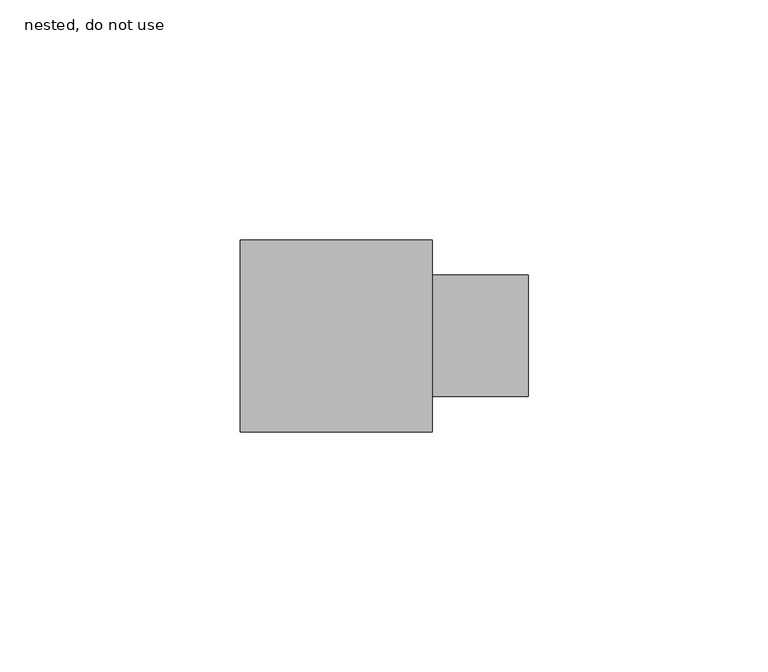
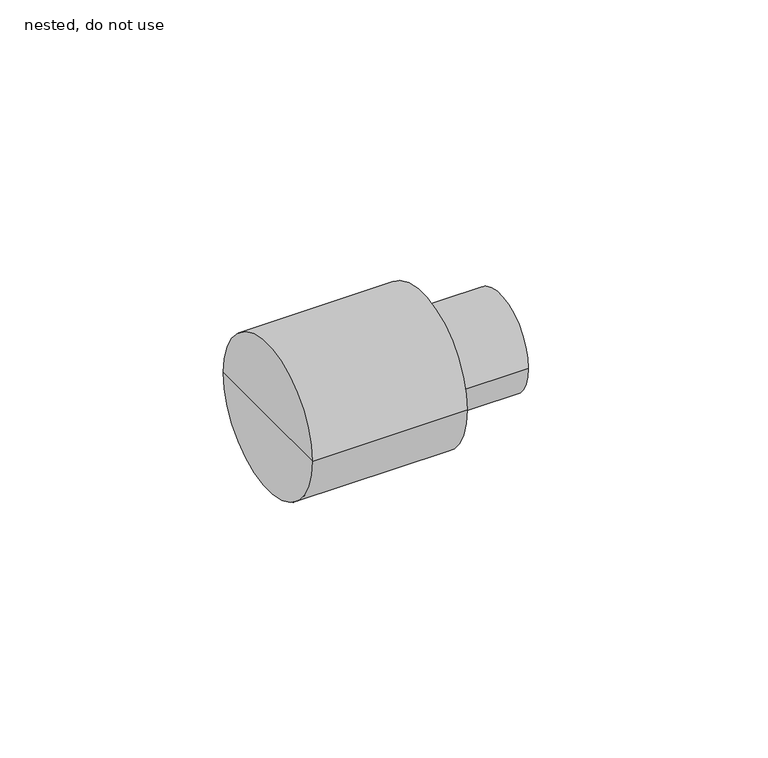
"""IFC4 building model written with IfcOpenShell, lengths in millimetres: pipe fitting geometry, NLRS_52_PIF_UN_HDPE male thread adapter -SH_Akatherm : nested, do not use."""

from ifc_helpers import new_model, si_unit, frame, origin, place, context, project, spatial, circle_curve, source, transform, mapped, element, save
from ifc_brep_helpers import plane_surface, cylinder_surface, advanced_brep


def nested_do_not_use_e3f89409(model_context):
    return source(origin(), model_context, "Body", "AdvancedBrep", [
        advanced_brep(
        [(30.0, 12.7, 0.0), (30.0, 0.0, 0.0), (30.0, -12.7, 0.0), (10.0, 12.7, 0.0), (10.0, -12.7, 0.0), (10.0, 20.0, 0.0), (10.0, -20.0, 0.0), (-30.0, 20.0, 0.0), (-30.0, -20.0, 0.0), (-30.0, 0.0, 0.0)],
        [
            (0, 1),
            (1, 2),
            (2, 0, circle_curve(frame((30.0, 0.0, 0.0), z_axis=(1.0, 0.0, 0.0), x_axis=(0.0, -1.0, 0.0)), 12.7)),
            (0, 2, circle_curve(frame((30.0, 0.0, 0.0), z_axis=(1.0, 0.0, 0.0), x_axis=(0.0, -1.0, 0.0)), 12.7)),
            (3, 0),
            (2, 4),
            (4, 3, circle_curve(frame((10.0, 0.0, 0.0), z_axis=(1.0, 0.0, 0.0), x_axis=(0.0, -1.0, 0.0)), 12.7)),
            (3, 4, circle_curve(frame((10.0, 0.0, 0.0), z_axis=(1.0, 0.0, 0.0), x_axis=(0.0, -1.0, 0.0)), 12.7)),
            (5, 3),
            (4, 6),
            (6, 5, circle_curve(frame((10.0, 0.0, 0.0), z_axis=(1.0, 0.0, 0.0), x_axis=(0.0, -1.0, 0.0)), 20.0)),
            (5, 6, circle_curve(frame((10.0, 0.0, 0.0), z_axis=(1.0, 0.0, 0.0), x_axis=(0.0, -1.0, 0.0)), 20.0)),
            (7, 5),
            (6, 8),
            (8, 7, circle_curve(frame((-30.0, 0.0, 0.0), z_axis=(1.0, 0.0, 0.0), x_axis=(0.0, -1.0, 0.0)), 20.0)),
            (7, 8, circle_curve(frame((-30.0, 0.0, 0.0), z_axis=(1.0, 0.0, 0.0), x_axis=(0.0, -1.0, 0.0)), 20.0)),
            (9, 7),
            (8, 9),
        ],
        [
            plane_surface(frame((30.0, 0.0, 0.0), z_axis=(1.0, 0.0, 0.0), x_axis=(0.0, -1.0, 0.0))),
            cylinder_surface(frame((-112.5, 0.0, 0.0), z_axis=(-1.0, 0.0, 0.0), x_axis=(0.0, -1.0, 0.0)), 12.7),
            plane_surface(frame((10.0, 0.0, 0.0), z_axis=(1.0, 0.0, 0.0), x_axis=(0.0, -1.0, 0.0))),
            cylinder_surface(frame((-112.5, 0.0, 0.0), z_axis=(-1.0, 0.0, 0.0), x_axis=(0.0, -1.0, 0.0)), 20.0),
            plane_surface(frame((-30.0, 0.0, 0.0), z_axis=(-1.0, 0.0, 0.0), x_axis=(0.0, -1.0, 0.0))),
        ],
        [
            (0, [[1, 2, 3]]),
            (0, [[-2, -1, 4]]),
            (1, [[5, -3, 6, 7]]),
            (1, [[-6, -4, -5, 8]]),
            (2, [[9, -7, 10, 11]]),
            (2, [[-10, -8, -9, 12]]),
            (3, [[13, -11, 14, 15]]),
            (3, [[-14, -12, -13, 16]]),
            (4, [[17, -15, 18]]),
            (4, [[-18, -16, -17]]),
        ],
    ),
    ])


if __name__ == "__main__":
    model = new_model("IFC4")
    model_context = context("Model", 3, world=origin())
    ifc_project = project(units=[si_unit("LENGTHUNIT", "METRE", prefix="MILLI")], contexts=[model_context])
    site = spatial("IfcSite", under=ifc_project)
    building = spatial("IfcBuilding", under=site)
    placement = place(None, origin())
    nested_do_not_use_shape = nested_do_not_use_e3f89409(model_context)
    element("IfcPipeFitting", 1, ObjectType="NLRS_52_PIF_UN_HDPE male thread adapter -SH_Akatherm : nested, do not use", at=placement, inside=building, context=model_context, shape_type="MappedRepresentation", body=[
        mapped(nested_do_not_use_shape, transform((0.0, 0.0, 0.0), x_axis=(1.0, 0.0, 0.0), y_axis=(0.0, 1.0, 0.0), z_axis=(0.0, 0.0, 1.0))),
    ])
    save(model, "model.ifc")
